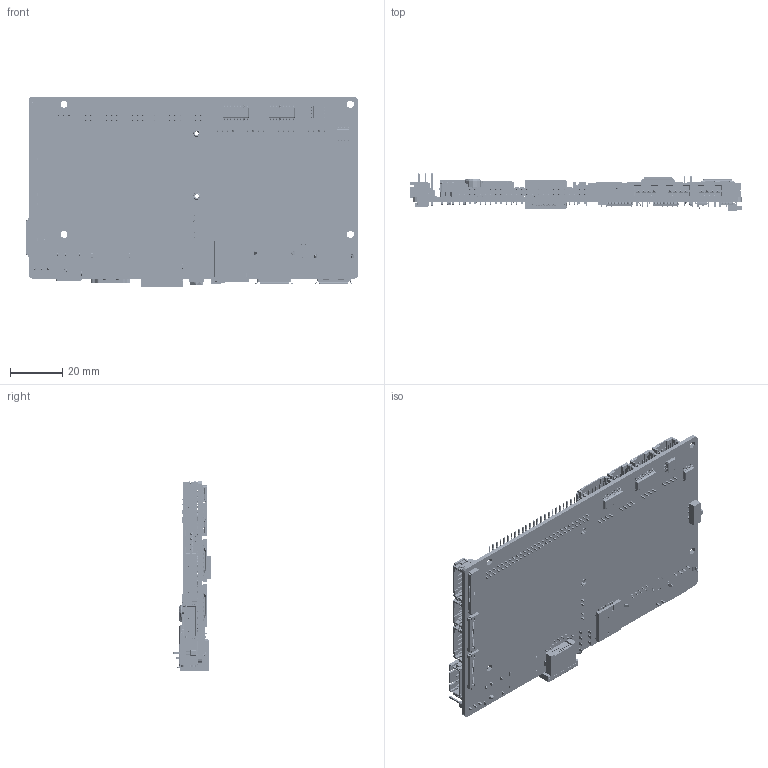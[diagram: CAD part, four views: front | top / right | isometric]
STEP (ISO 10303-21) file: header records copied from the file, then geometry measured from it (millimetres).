
FILE_DESCRIPTION (( 'STEP AP214' ), '1' );
FILE_NAME ('EBF410271V1R0.STEP', '2026-05-14T06:05:46', ( '' ), ( '' ), 'SwSTEP 2.0', 'SolidWorks 2023', '' );
FILE_SCHEMA (( 'AUTOMOTIVE_DESIGN' ));
Length unit declared in the file: millimetre
Products named in the file (44): WIFI模组12X12; 侧贴LED红; VZL101M1ETR-0606; 04203.3uh; 2.0排针 2x3P; RTL8211F-CG; EBF410271V1R0-20241128; 长鑫DRAM; RK809-5A; DC-044A-20A DC插座; 耳机座子插件7P; TS-1088-AR02016; SMD1812P200TF16; PH2.0-4P 间距2.0; HDMI 座子卧式 长度15 零件; PH-2A; PH-4PWBPZ; 侧贴LED绿; PH-6PWBPZ; 创都1.25T-2A; SIM卡mini; SIT3088EESA; 视频音频接口芯片7X7; User Library-Micro_SD_Socket_Push-push; 2.0弯插双排排针30P; HC-XH-4AWT; ufl天线座子; M2x3 台阶外径4.5整体4.5焊接外径3; eMMC-32G; 2.54排针2PIN; SIT3232EESE; 2.54排针3PIN; FPC24PIN0.5; PCIE-52P56H; RK3566; EBF410271V1R0; 2.0弯插双排排针20P; MSKT-22D18双排6脚2挡拨动开关; FPC连接器 针脚数30 间距0.5mm 高度2.0mm 下接 卧贴 翻盖式; USB-U212-BJS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
Assembly tree (64 placements, depth 2):
  EBF410271V1R0
    EBF410271V1R0-20241128
    侧贴LED红
    侧贴LED绿
    2.54排针3PIN
    DC-044A-20A DC插座
    HDMI 座子卧式 长度15 零件
    RJ45 沉板 带灯 带屏蔽 12p RC01835
    耳机座子插件7P
    User Library-Micro_SD_Socket_Push-push
    USB-301WD-ARY
    USB-U212-BJS
    HC-XH-4AWT
    PH-6PWBPZ  x4
    PH-4PWBPZ  x6
    2.0弯插双排排针30P
    2.0弯插双排排针20P
    2.0排针 2x3P
    2.54排针2PIN
    创都1.25T-2A
    ZH1.5直插-2P
    ufl天线座子
    PH2.0-4P 间距2.0  x4
    PH-2A  x2
    VZL101M1ETR-0606
    PCIE-52P56H
    SMD1812P200TF16
    RK3566
    长鑫DRAM
    eMMC-32G
    RTL8211F-CG
    RK809-5A
    视频音频接口芯片7X7
    04203.3uh  x5
    WIFI模组12X12
    M2x3 台阶外径4.5整体4.5焊接外径3  x2
    TS-1088-AR02016
    NS4110B  x2
    SIM卡mini
    FPC24PIN0.5  x2
    FPC连接器 针脚数30 间距0.5mm 高度2.0mm 下接 卧贴 翻盖式
    SIT3232EESE  x2
    SIT3088EESA  x2
    MSKT-22D18双排6脚2挡拨动开关
Bounding box: 127.63 x 14.69 x 73.36 mm (x, y, z)
Topology: 719 solids, 752 shells, 33984 faces, 94221 edges, 59331 vertices
Faces by surface type: plane 22648, bspline 7163, cylinder 4063, cone 96, torus 14
Entity records: 890508 total; most frequent: CARTESIAN_POINT 294556, ORIENTED_EDGE 132072, DIRECTION 103710, EDGE_CURVE 66045, VECTOR 47774, LINE 47774, VERTEX_POINT 43796, AXIS2_PLACEMENT_3D 27968
